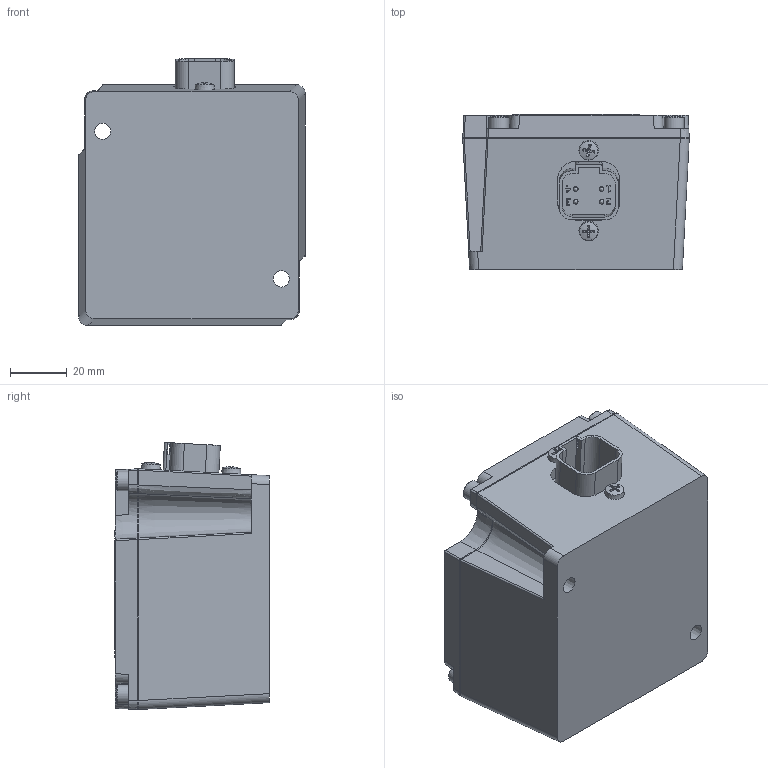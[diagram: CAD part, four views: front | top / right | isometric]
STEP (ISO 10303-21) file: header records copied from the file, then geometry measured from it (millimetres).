
FILE_DESCRIPTION(/* description */ (''),/* implementation_level */ '2;1');
FILE_NAME(/* name */ 'S:\Projects\3DA-INC-CAN-DT15-4P, AX060806, Proj_16030\MECHANICAL\rev 2\AX060810.stp',/* time_stamp */ '2019-09-26T17:01:54-04:00',/* author */ ('tfisher'),/* organization */ (''),/* preprocessor_version */ 'ST-DEVELOPER v15.2',/* originating_system */ 'Autodesk Inventor 2014',/* authorisation */ '');
FILE_SCHEMA (('AUTOMOTIVE_DESIGN { 1 0 10303 214 3 1 1 }'));
Length unit declared in the file: inch
Products named in the file (1): FG-AX060810 for STEP
Bounding box: 79.82 x 54.58 x 94.1 mm (x, y, z)
Volume: 145852.4 mm3; surface area: 66442.8 mm2
Topology: 6 solids, 10 shells, 732 faces, 1928 edges, 1262 vertices
Faces by surface type: plane 403, cylinder 130, bspline 121, cone 62, torus 14, sphere 2
Full cylindrical faces by diameter (mm): 1.524 x12, 1.575 x12, 1.803 x4, 2 x2, 2.464 x4, 2.794 x7, 3.175 x2, 3.251 x4, 4.75 x2, 6.35 x3, 6.604 x3, 7 x4, 7.925 x2
Entity records: 27056 total; most frequent: CARTESIAN_POINT 9513, ORIENTED_EDGE 3590, DIRECTION 3055, EDGE_CURVE 1795, VERTEX_POINT 1226, LINE 1033, VECTOR 1033, AXIS2_PLACEMENT_3D 1011
